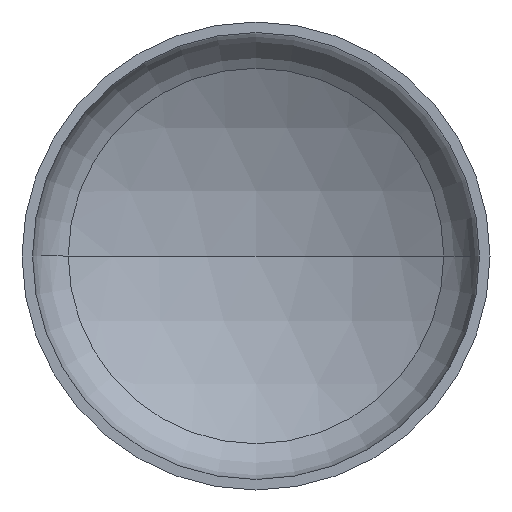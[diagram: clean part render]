
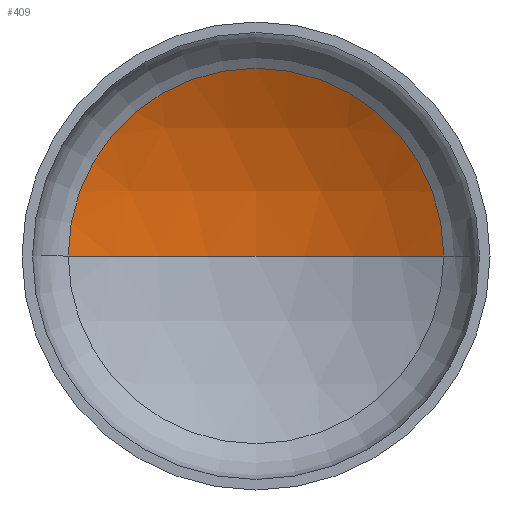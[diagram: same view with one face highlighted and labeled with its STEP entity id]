
A CAD part, front view. The second image highlights one B-rep face of the part: STEP entity #409.
In plain terms, the highlighted spherical face has radius 2560 mm.
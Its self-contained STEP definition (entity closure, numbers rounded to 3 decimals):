
#24 = EDGE_LOOP ( 'NONE', ( #168, #58, #172 ) ) ;
#31 = VERTEX_POINT ( 'NONE', #288 ) ;
#33 = AXIS2_PLACEMENT_3D ( 'NONE', #205, #207, #192 ) ;
#34 = AXIS2_PLACEMENT_3D ( 'NONE', #301, #222, #220 ) ;
#37 = AXIS2_PLACEMENT_3D ( 'NONE', #187, #197, #198 ) ;
#58 = ORIENTED_EDGE ( 'NONE', *, *, #79, .T. ) ;
#76 = EDGE_CURVE ( 'NONE', #31, #104, #339, .T. ) ;
#79 = EDGE_CURVE ( 'NONE', #154, #31, #281, .T. ) ;
#80 = EDGE_CURVE ( 'NONE', #154, #104, #138, .T. ) ;
#104 = VERTEX_POINT ( 'NONE', #384 ) ;
#138 = CIRCLE ( 'NONE', #33, 2560. ) ;
#154 = VERTEX_POINT ( 'NONE', #201 ) ;
#166 = FACE_OUTER_BOUND ( 'NONE', #24, .T. ) ;
#168 = ORIENTED_EDGE ( 'NONE', *, *, #80, .F. ) ;
#172 = ORIENTED_EDGE ( 'NONE', *, *, #76, .T. ) ;
#187 = CARTESIAN_POINT ( 'NONE',  ( 0., 543.942, 0. ) ) ;
#192 = DIRECTION ( 'NONE',  ( 1., 0., 0. ) ) ;
#197 = DIRECTION ( 'NONE',  ( 0., -1., 0. ) ) ;
#198 = DIRECTION ( 'NONE',  ( 1., 0., 0. ) ) ;
#201 = CARTESIAN_POINT ( 'NONE',  ( 0., 889.063, 0. ) ) ;
#205 = CARTESIAN_POINT ( 'NONE',  ( 0., -1670.937, 0. ) ) ;
#207 = DIRECTION ( 'NONE',  ( 0., 0., 1. ) ) ;
#220 = DIRECTION ( 'NONE',  ( -1., 0., 0. ) ) ;
#222 = DIRECTION ( 'NONE',  ( 0., 0., -1. ) ) ;
#263 = CARTESIAN_POINT ( 'NONE',  ( 0., -1670.937, 0. ) ) ;
#281 = CIRCLE ( 'NONE', #34, 2560. ) ;
#283 = AXIS2_PLACEMENT_3D ( 'NONE', #263, #326, #345 ) ;
#288 = CARTESIAN_POINT ( 'NONE',  ( 1283.71, 543.942, 0. ) ) ;
#301 = CARTESIAN_POINT ( 'NONE',  ( 0., -1670.937, 0. ) ) ;
#326 = DIRECTION ( 'NONE',  ( 0., 0., -1. ) ) ;
#339 = CIRCLE ( 'NONE', #37, 1283.71 ) ;
#340 = SPHERICAL_SURFACE ( 'NONE', #283, 2560. ) ;
#345 = DIRECTION ( 'NONE',  ( -1., 0., 0. ) ) ;
#384 = CARTESIAN_POINT ( 'NONE',  ( -1283.71, 543.942, 0. ) ) ;
#409 = ADVANCED_FACE ( 'NONE', ( #166 ), #340, .F. ) ;
